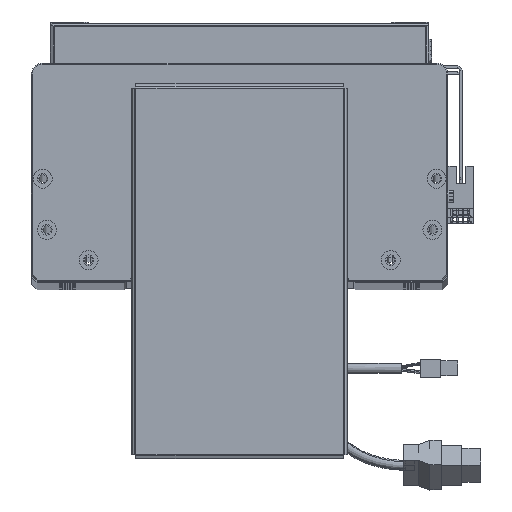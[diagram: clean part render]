
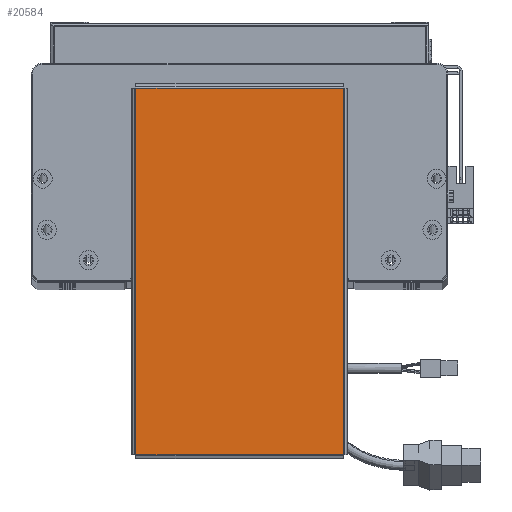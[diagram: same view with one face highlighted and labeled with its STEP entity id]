
A CAD part, top view. The second image highlights one B-rep face of the part: STEP entity #20584.
In plain terms, the highlighted planar face has unit normal (0, 0, 1).
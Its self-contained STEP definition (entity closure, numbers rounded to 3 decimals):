
#972 = VERTEX_POINT ( 'NONE', #61139 ) ;
#7215 = EDGE_LOOP ( 'NONE', ( #53187, #23184, #7421, #54922 ) ) ;
#7421 = ORIENTED_EDGE ( 'NONE', *, *, #46943, .T. ) ;
#8795 = VERTEX_POINT ( 'NONE', #32866 ) ;
#10311 = CARTESIAN_POINT ( 'NONE',  ( 96.763, 54.763, 0. ) ) ;
#10678 = CARTESIAN_POINT ( 'NONE',  ( 96.793, 54.763, 0. ) ) ;
#12000 = EDGE_CURVE ( 'NONE', #972, #68749, #39139, .T. ) ;
#15234 = CARTESIAN_POINT ( 'NONE',  ( 0., 0., 0. ) ) ;
#15269 = DIRECTION ( 'NONE',  ( 1., 0., 0. ) ) ;
#18016 = DIRECTION ( 'NONE',  ( 0., 1., 0. ) ) ;
#18421 = VERTEX_POINT ( 'NONE', #21225 ) ;
#20584 = ADVANCED_FACE ( 'NONE', ( #48482 ), #49161, .T. ) ;
#21225 = CARTESIAN_POINT ( 'NONE',  ( -96.763, 54.763, 0. ) ) ;
#21791 = DIRECTION ( 'NONE',  ( -1., 0., 0. ) ) ;
#23184 = ORIENTED_EDGE ( 'NONE', *, *, #12000, .T. ) ;
#28231 = LINE ( 'NONE', #10678, #62888 ) ;
#32866 = CARTESIAN_POINT ( 'NONE',  ( -96.763, -54.763, 0. ) ) ;
#34198 = LINE ( 'NONE', #42190, #45497 ) ;
#34784 = DIRECTION ( 'NONE',  ( 1., 0., 0. ) ) ;
#39139 = LINE ( 'NONE', #44965, #40883 ) ;
#40883 = VECTOR ( 'NONE', #18016, 1000. ) ;
#42190 = CARTESIAN_POINT ( 'NONE',  ( -96.793, -54.763, 0. ) ) ;
#44965 = CARTESIAN_POINT ( 'NONE',  ( 96.763, -54.793, 0. ) ) ;
#45497 = VECTOR ( 'NONE', #15269, 1000. ) ;
#46943 = EDGE_CURVE ( 'NONE', #68749, #18421, #28231, .T. ) ;
#48482 = FACE_OUTER_BOUND ( 'NONE', #7215, .T. ) ;
#49161 = PLANE ( 'NONE',  #69798 ) ;
#50174 = EDGE_CURVE ( 'NONE', #8795, #972, #34198, .T. ) ;
#50567 = CARTESIAN_POINT ( 'NONE',  ( -96.763, 54.793, 0. ) ) ;
#53187 = ORIENTED_EDGE ( 'NONE', *, *, #50174, .T. ) ;
#53384 = EDGE_CURVE ( 'NONE', #18421, #8795, #60727, .T. ) ;
#54461 = DIRECTION ( 'NONE',  ( 0., 0., 1. ) ) ;
#54922 = ORIENTED_EDGE ( 'NONE', *, *, #53384, .T. ) ;
#55921 = DIRECTION ( 'NONE',  ( 0., -1., 0. ) ) ;
#59028 = VECTOR ( 'NONE', #55921, 1000. ) ;
#60727 = LINE ( 'NONE', #50567, #59028 ) ;
#61139 = CARTESIAN_POINT ( 'NONE',  ( 96.763, -54.763, 0. ) ) ;
#62888 = VECTOR ( 'NONE', #21791, 1000. ) ;
#68749 = VERTEX_POINT ( 'NONE', #10311 ) ;
#69798 = AXIS2_PLACEMENT_3D ( 'NONE', #15234, #54461, #34784 ) ;
